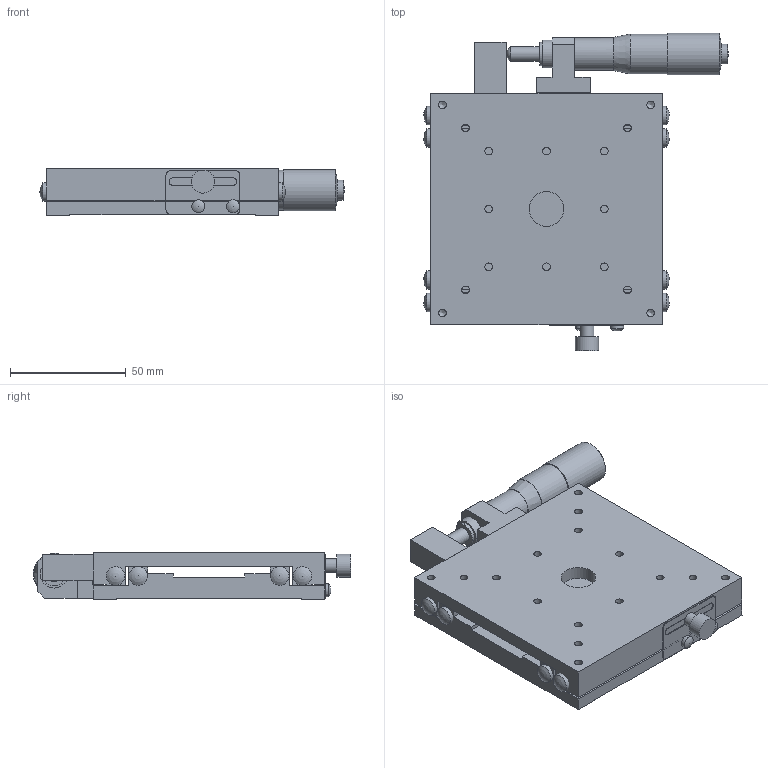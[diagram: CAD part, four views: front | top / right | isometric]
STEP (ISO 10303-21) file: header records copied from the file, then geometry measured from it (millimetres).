
FILE_DESCRIPTION( ( 'STEP AP214' ), '1' );
FILE_NAME( 'C:/Project/3D_B11-100CR-配布-070508.stp', '2007-05-08T10:42:29', ( ' ' ), ( ' ' ), 'XStep 1.0', ' ', ' ' );
FILE_SCHEMA( ( 'automotive_design' ) );
Length unit declared in the file: millimetre
Products named in the file (3): 1; 2; 3
Bounding box: 131.7 x 137.29 x 20 mm (x, y, z)
Volume: 191855.3 mm3; surface area: 65621.8 mm2
Topology: 3 solids, 3 shells, 168 faces, 509 edges, 330 vertices
Faces by surface type: plane 84, cylinder 61, sphere 12, cone 11
Full cylindrical faces by diameter (mm): 3 x1, 3.3 x20, 4.5 x4, 5.6 x2, 6 x1, 6.35 x2, 8 x12, 8.6 x1, 10 x2, 12 x1, 14 x1, 15 x1, 16.8 x1, 17.2 x1, 18 x1
Entity records: 6103 total; most frequent: DIRECTION 811, CARTESIAN_POINT 808, ORIENTED_EDGE 706, EDGE_CURVE 353, AXIS2_PLACEMENT_3D 291, EDGE_LOOP 275, VERTEX_POINT 264, LINE 229
